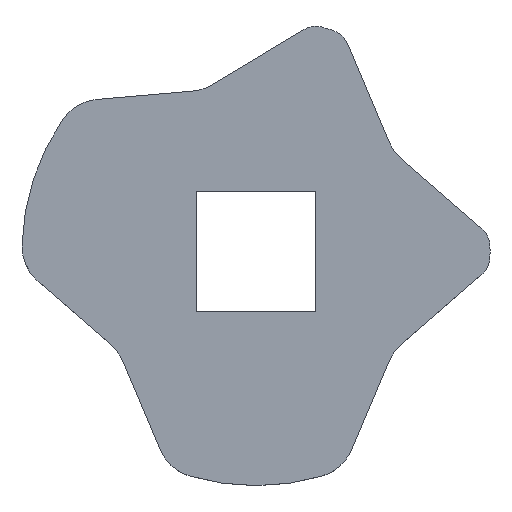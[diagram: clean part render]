
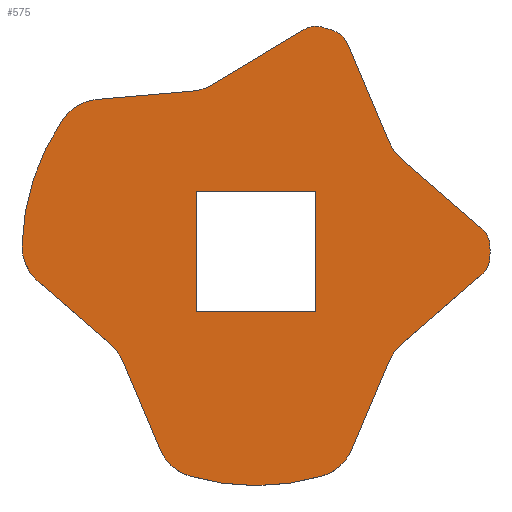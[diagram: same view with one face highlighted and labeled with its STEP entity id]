
A CAD part, top view. The second image highlights one B-rep face of the part: STEP entity #575.
In plain terms, the highlighted planar face has unit normal (0, 0, 1).
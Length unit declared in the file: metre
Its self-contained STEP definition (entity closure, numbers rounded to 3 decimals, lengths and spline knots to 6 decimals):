
#21=PLANE('',#650);
#29=LINE('',#850,#81);
#33=LINE('',#862,#85);
#39=LINE('',#886,#91);
#43=LINE('',#898,#95);
#49=LINE('',#922,#101);
#53=LINE('',#934,#105);
#59=LINE('',#958,#111);
#63=LINE('',#970,#115);
#70=LINE('',#988,#122);
#71=LINE('',#991,#123);
#72=LINE('',#993,#124);
#73=LINE('',#995,#125);
#81=VECTOR('',#674,1.);
#85=VECTOR('',#686,1.);
#91=VECTOR('',#712,1.);
#95=VECTOR('',#724,1.);
#101=VECTOR('',#750,1.);
#105=VECTOR('',#762,1.);
#111=VECTOR('',#788,1.);
#115=VECTOR('',#800,1.);
#122=VECTOR('',#817,1.);
#123=VECTOR('',#818,1.);
#124=VECTOR('',#819,1.);
#125=VECTOR('',#820,1.);
#254=ORIENTED_EDGE('',*,*,#374,.F.);
#255=ORIENTED_EDGE('',*,*,#375,.F.);
#256=ORIENTED_EDGE('',*,*,#376,.T.);
#257=ORIENTED_EDGE('',*,*,#377,.T.);
#258=ORIENTED_EDGE('',*,*,#298,.T.);
#259=ORIENTED_EDGE('',*,*,#302,.T.);
#260=ORIENTED_EDGE('',*,*,#305,.F.);
#261=ORIENTED_EDGE('',*,*,#308,.F.);
#262=ORIENTED_EDGE('',*,*,#311,.F.);
#263=ORIENTED_EDGE('',*,*,#314,.T.);
#264=ORIENTED_EDGE('',*,*,#317,.T.);
#265=ORIENTED_EDGE('',*,*,#320,.T.);
#266=ORIENTED_EDGE('',*,*,#323,.F.);
#267=ORIENTED_EDGE('',*,*,#326,.F.);
#268=ORIENTED_EDGE('',*,*,#329,.F.);
#269=ORIENTED_EDGE('',*,*,#332,.T.);
#270=ORIENTED_EDGE('',*,*,#335,.T.);
#271=ORIENTED_EDGE('',*,*,#338,.T.);
#272=ORIENTED_EDGE('',*,*,#341,.F.);
#273=ORIENTED_EDGE('',*,*,#344,.F.);
#274=ORIENTED_EDGE('',*,*,#347,.F.);
#275=ORIENTED_EDGE('',*,*,#350,.T.);
#276=ORIENTED_EDGE('',*,*,#353,.T.);
#277=ORIENTED_EDGE('',*,*,#356,.T.);
#278=ORIENTED_EDGE('',*,*,#359,.F.);
#279=ORIENTED_EDGE('',*,*,#362,.F.);
#280=ORIENTED_EDGE('',*,*,#365,.F.);
#281=ORIENTED_EDGE('',*,*,#368,.T.);
#298=EDGE_CURVE('',#382,#383,#438,.T.);
#302=EDGE_CURVE('',#383,#386,#440,.T.);
#305=EDGE_CURVE('',#388,#386,#29,.T.);
#308=EDGE_CURVE('',#390,#388,#442,.T.);
#311=EDGE_CURVE('',#392,#390,#33,.T.);
#314=EDGE_CURVE('',#392,#394,#444,.T.);
#317=EDGE_CURVE('',#394,#396,#446,.T.);
#320=EDGE_CURVE('',#396,#398,#448,.T.);
#323=EDGE_CURVE('',#400,#398,#39,.T.);
#326=EDGE_CURVE('',#402,#400,#450,.T.);
#329=EDGE_CURVE('',#404,#402,#43,.T.);
#332=EDGE_CURVE('',#404,#406,#452,.T.);
#335=EDGE_CURVE('',#406,#408,#454,.T.);
#338=EDGE_CURVE('',#408,#410,#456,.T.);
#341=EDGE_CURVE('',#412,#410,#49,.T.);
#344=EDGE_CURVE('',#414,#412,#458,.T.);
#347=EDGE_CURVE('',#416,#414,#53,.T.);
#350=EDGE_CURVE('',#416,#418,#460,.T.);
#353=EDGE_CURVE('',#418,#420,#462,.T.);
#356=EDGE_CURVE('',#420,#422,#464,.T.);
#359=EDGE_CURVE('',#424,#422,#59,.T.);
#362=EDGE_CURVE('',#426,#424,#466,.T.);
#365=EDGE_CURVE('',#428,#426,#63,.T.);
#368=EDGE_CURVE('',#428,#382,#468,.T.);
#374=EDGE_CURVE('',#434,#435,#70,.T.);
#375=EDGE_CURVE('',#436,#434,#71,.T.);
#376=EDGE_CURVE('',#436,#437,#72,.T.);
#377=EDGE_CURVE('',#437,#435,#73,.T.);
#382=VERTEX_POINT('',#836);
#383=VERTEX_POINT('',#837);
#386=VERTEX_POINT('',#845);
#388=VERTEX_POINT('',#851);
#390=VERTEX_POINT('',#857);
#392=VERTEX_POINT('',#863);
#394=VERTEX_POINT('',#869);
#396=VERTEX_POINT('',#875);
#398=VERTEX_POINT('',#881);
#400=VERTEX_POINT('',#887);
#402=VERTEX_POINT('',#893);
#404=VERTEX_POINT('',#899);
#406=VERTEX_POINT('',#905);
#408=VERTEX_POINT('',#911);
#410=VERTEX_POINT('',#917);
#412=VERTEX_POINT('',#923);
#414=VERTEX_POINT('',#929);
#416=VERTEX_POINT('',#935);
#418=VERTEX_POINT('',#941);
#420=VERTEX_POINT('',#947);
#422=VERTEX_POINT('',#953);
#424=VERTEX_POINT('',#959);
#426=VERTEX_POINT('',#965);
#428=VERTEX_POINT('',#971);
#434=VERTEX_POINT('',#989);
#435=VERTEX_POINT('',#990);
#436=VERTEX_POINT('',#992);
#437=VERTEX_POINT('',#994);
#438=CIRCLE('',#594,0.02);
#440=CIRCLE('',#597,0.004);
#442=CIRCLE('',#601,0.004);
#444=CIRCLE('',#605,0.002);
#446=CIRCLE('',#608,0.02);
#448=CIRCLE('',#611,0.002);
#450=CIRCLE('',#615,0.004);
#452=CIRCLE('',#619,0.002);
#454=CIRCLE('',#622,0.02);
#456=CIRCLE('',#625,0.002);
#458=CIRCLE('',#629,0.004);
#460=CIRCLE('',#633,0.004);
#462=CIRCLE('',#636,0.02);
#464=CIRCLE('',#639,0.004);
#466=CIRCLE('',#643,0.004);
#468=CIRCLE('',#647,0.004);
#496=EDGE_LOOP('',(#254,#255,#256,#257));
#497=EDGE_LOOP('',(#258,#259,#260,#261,#262,#263,#264,#265,#266,#267,#268,
#269,#270,#271,#272,#273,#274,#275,#276,#277,#278,#279,#280,#281));
#528=FACE_BOUND('',#496,.T.);
#529=FACE_BOUND('',#497,.T.);
#575=ADVANCED_FACE('',(#528,#529),#21,.T.);
#594=AXIS2_PLACEMENT_3D('',#835,#659,#660);
#597=AXIS2_PLACEMENT_3D('',#844,#667,#668);
#601=AXIS2_PLACEMENT_3D('',#856,#679,#680);
#605=AXIS2_PLACEMENT_3D('',#868,#691,#692);
#608=AXIS2_PLACEMENT_3D('',#874,#698,#699);
#611=AXIS2_PLACEMENT_3D('',#880,#705,#706);
#615=AXIS2_PLACEMENT_3D('',#892,#717,#718);
#619=AXIS2_PLACEMENT_3D('',#904,#729,#730);
#622=AXIS2_PLACEMENT_3D('',#910,#736,#737);
#625=AXIS2_PLACEMENT_3D('',#916,#743,#744);
#629=AXIS2_PLACEMENT_3D('',#928,#755,#756);
#633=AXIS2_PLACEMENT_3D('',#940,#767,#768);
#636=AXIS2_PLACEMENT_3D('',#946,#774,#775);
#639=AXIS2_PLACEMENT_3D('',#952,#781,#782);
#643=AXIS2_PLACEMENT_3D('',#964,#793,#794);
#647=AXIS2_PLACEMENT_3D('',#976,#805,#806);
#650=AXIS2_PLACEMENT_3D('',#987,#815,#816);
#659=DIRECTION('',(0.,0.,1.));
#660=DIRECTION('',(1.,0.,0.));
#667=DIRECTION('',(0.,0.,1.));
#668=DIRECTION('',(1.,0.,0.));
#674=DIRECTION('',(-0.39,-0.921,0.));
#679=DIRECTION('',(0.,0.,1.));
#680=DIRECTION('',(1.,0.,0.));
#686=DIRECTION('',(-0.756,-0.655,0.));
#691=DIRECTION('',(0.,0.,1.));
#692=DIRECTION('',(1.,0.,0.));
#698=DIRECTION('',(0.,0.,1.));
#699=DIRECTION('',(1.,0.,0.));
#705=DIRECTION('',(0.,0.,1.));
#706=DIRECTION('',(1.,0.,0.));
#712=DIRECTION('',(0.756,-0.655,0.));
#717=DIRECTION('',(0.,0.,1.));
#718=DIRECTION('',(1.,0.,0.));
#724=DIRECTION('',(0.39,-0.921,0.));
#729=DIRECTION('',(0.,0.,1.));
#730=DIRECTION('',(1.,0.,0.));
#736=DIRECTION('',(0.,0.,1.));
#737=DIRECTION('',(1.,0.,0.));
#743=DIRECTION('',(0.,0.,1.));
#744=DIRECTION('',(1.,0.,0.));
#750=DIRECTION('',(0.857,0.516,0.));
#755=DIRECTION('',(0.,0.,1.));
#756=DIRECTION('',(1.,0.,0.));
#762=DIRECTION('',(0.996,0.086,0.));
#767=DIRECTION('',(0.,0.,1.));
#768=DIRECTION('',(1.,0.,0.));
#774=DIRECTION('',(0.,0.,1.));
#775=DIRECTION('',(1.,0.,0.));
#781=DIRECTION('',(0.,0.,1.));
#782=DIRECTION('',(1.,0.,0.));
#788=DIRECTION('',(-0.756,0.655,0.));
#793=DIRECTION('',(0.,0.,1.));
#794=DIRECTION('',(1.,0.,0.));
#800=DIRECTION('',(-0.39,0.921,0.));
#805=DIRECTION('',(0.,0.,1.));
#806=DIRECTION('',(1.,0.,0.));
#815=DIRECTION('',(0.,0.,1.));
#816=DIRECTION('',(1.,0.,0.));
#817=DIRECTION('',(1.,0.,0.));
#818=DIRECTION('',(0.,-1.,0.));
#819=DIRECTION('',(1.,0.,0.));
#820=DIRECTION('',(0.,-1.,0.));
#835=CARTESIAN_POINT('',(0.,0.,-0.0381));
#836=CARTESIAN_POINT('',(-0.005622,-0.019193,-0.0381));
#837=CARTESIAN_POINT('',(0.005622,-0.019193,-0.0381));
#844=CARTESIAN_POINT('',(0.004498,-0.015355,-0.0381));
#845=CARTESIAN_POINT('',(0.008182,-0.016913,-0.0381));
#850=CARTESIAN_POINT('',(0.009775,-0.013146,-0.0381));
#851=CARTESIAN_POINT('',(0.011369,-0.009378,-0.0381));
#856=CARTESIAN_POINT('',(0.015053,-0.010937,-0.0381));
#857=CARTESIAN_POINT('',(0.012432,-0.007914,-0.0381));
#862=CARTESIAN_POINT('',(0.015869,-0.004935,-0.0381));
#863=CARTESIAN_POINT('',(0.019305,-0.001956,-0.0381));
#868=CARTESIAN_POINT('',(0.017995,-0.000445,-0.0381));
#869=CARTESIAN_POINT('',(0.019994,-0.000494,-0.0381));
#874=CARTESIAN_POINT('',(0.,0.,-0.0381));
#875=CARTESIAN_POINT('',(0.019994,0.000494,-0.0381));
#880=CARTESIAN_POINT('',(0.017995,0.000445,-0.0381));
#881=CARTESIAN_POINT('',(0.019305,0.001956,-0.0381));
#886=CARTESIAN_POINT('',(0.015869,0.004935,-0.0381));
#887=CARTESIAN_POINT('',(0.012432,0.007914,-0.0381));
#892=CARTESIAN_POINT('',(0.015053,0.010937,-0.0381));
#893=CARTESIAN_POINT('',(0.011369,0.009378,-0.0381));
#898=CARTESIAN_POINT('',(0.009597,0.013567,-0.0381));
#899=CARTESIAN_POINT('',(0.007826,0.017756,-0.0381));
#904=CARTESIAN_POINT('',(0.005984,0.016976,-0.0381));
#905=CARTESIAN_POINT('',(0.006648,0.018863,-0.0381));
#910=CARTESIAN_POINT('',(0.,0.,-0.0381));
#911=CARTESIAN_POINT('',(0.005709,0.019168,-0.0381));
#916=CARTESIAN_POINT('',(0.005138,0.017251,-0.0381));
#917=CARTESIAN_POINT('',(0.004105,0.018964,-0.0381));
#922=CARTESIAN_POINT('',(0.00021,0.016617,-0.0381));
#923=CARTESIAN_POINT('',(-0.003685,0.01427,-0.0381));
#928=CARTESIAN_POINT('',(-0.00575,0.017696,-0.0381));
#929=CARTESIAN_POINT('',(-0.005406,0.013711,-0.0381));
#934=CARTESIAN_POINT('',(-0.009482,0.013359,-0.0381));
#935=CARTESIAN_POINT('',(-0.013557,0.013008,-0.0381));
#940=CARTESIAN_POINT('',(-0.013213,0.009023,-0.0381));
#941=CARTESIAN_POINT('',(-0.016517,0.011278,-0.0381));
#946=CARTESIAN_POINT('',(0.,0.,-0.0381));
#947=CARTESIAN_POINT('',(-0.019991,0.000584,-0.0381));
#952=CARTESIAN_POINT('',(-0.015993,0.000467,-0.0381));
#953=CARTESIAN_POINT('',(-0.018614,-0.002555,-0.0381));
#958=CARTESIAN_POINT('',(-0.015523,-0.005235,-0.0381));
#959=CARTESIAN_POINT('',(-0.012432,-0.007914,-0.0381));
#964=CARTESIAN_POINT('',(-0.015053,-0.010937,-0.0381));
#965=CARTESIAN_POINT('',(-0.011369,-0.009378,-0.0381));
#970=CARTESIAN_POINT('',(-0.009775,-0.013146,-0.0381));
#971=CARTESIAN_POINT('',(-0.008182,-0.016913,-0.0381));
#976=CARTESIAN_POINT('',(-0.004498,-0.015355,-0.0381));
#987=CARTESIAN_POINT('',(0.,0.,-0.0381));
#988=CARTESIAN_POINT('',(0.,-0.0051,-0.0381));
#989=CARTESIAN_POINT('',(-0.0051,-0.0051,-0.0381));
#990=CARTESIAN_POINT('',(0.0051,-0.0051,-0.0381));
#991=CARTESIAN_POINT('',(-0.0051,0.,-0.0381));
#992=CARTESIAN_POINT('',(-0.0051,0.0051,-0.0381));
#993=CARTESIAN_POINT('',(0.,0.0051,-0.0381));
#994=CARTESIAN_POINT('',(0.0051,0.0051,-0.0381));
#995=CARTESIAN_POINT('',(0.0051,0.,-0.0381));
